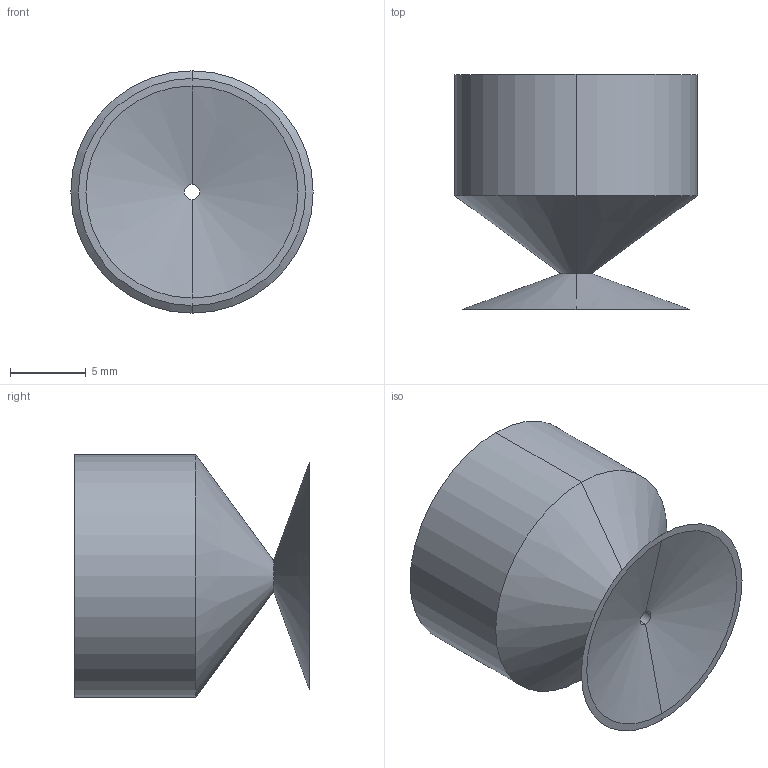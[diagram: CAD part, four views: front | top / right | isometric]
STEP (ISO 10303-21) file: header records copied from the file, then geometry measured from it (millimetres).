
FILE_DESCRIPTION (( 'STEP AP214' ), '1' );
FILE_NAME ('VSH-M15.STEP', '2019-11-30T09:10:38', ( '微软用户' ), ( '微软中国' ), 'SwSTEP 2.0', 'SolidWorks 2016', '' );
FILE_SCHEMA (( 'AUTOMOTIVE_DESIGN' ));
Length unit declared in the file: millimetre
Products named in the file (1): VSH-M15
Bounding box: 16 x 15.5 x 16 mm (x, y, z)
Volume: 1569.1 mm3; surface area: 1553.1 mm2
Topology: 1 solids, 1 shells, 18 faces, 36 edges, 22 vertices
Faces by surface type: cylinder 8, cone 6, plane 4
Entity records: 512 total; most frequent: DIRECTION 96, CARTESIAN_POINT 77, ORIENTED_EDGE 72, AXIS2_PLACEMENT_3D 41, EDGE_CURVE 36, VERTEX_POINT 22, EDGE_LOOP 22, CIRCLE 22
